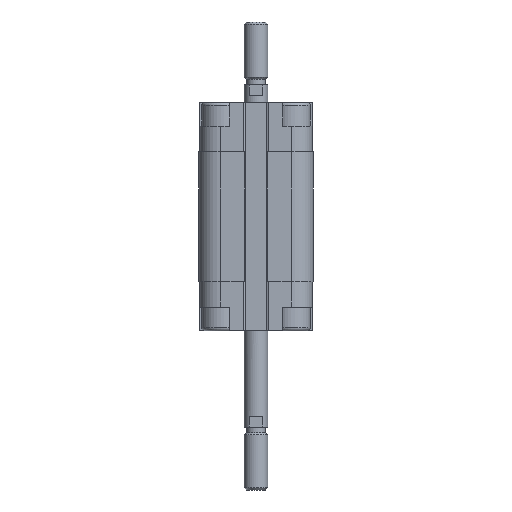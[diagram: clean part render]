
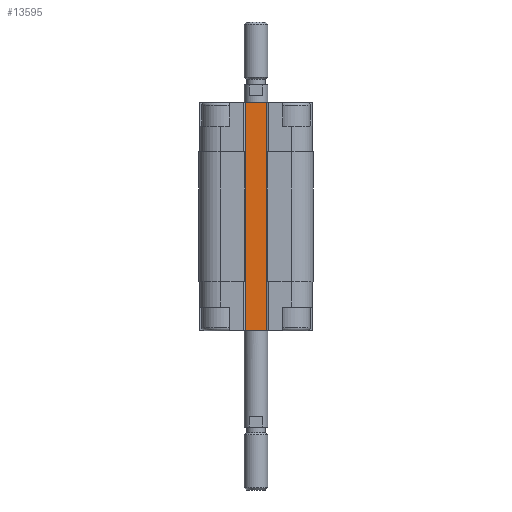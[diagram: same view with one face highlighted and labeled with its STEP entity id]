
A CAD part, front view. The second image highlights one B-rep face of the part: STEP entity #13595.
In plain terms, the highlighted planar face has unit normal (0, -1, 0).
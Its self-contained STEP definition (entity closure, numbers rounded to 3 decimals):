
#19 = ORIENTED_EDGE ( 'NONE', *, *, #2784, .F. ) ;
#64 = VECTOR ( 'NONE', #9588, 1000. ) ;
#168 = EDGE_LOOP ( 'NONE', ( #3519, #11594, #3656, #12008, #4501, #17433, #14143, #13774, #12749, #10877, #19, #6963 ) ) ;
#701 = LINE ( 'NONE', #11551, #7734 ) ;
#982 = DIRECTION ( 'NONE',  ( 0., 0., 1. ) ) ;
#999 = CARTESIAN_POINT ( 'NONE',  ( -3.2, -9.5, -12.5 ) ) ;
#1202 = DIRECTION ( 'NONE',  ( -1., 0., 0. ) ) ;
#1282 = VERTEX_POINT ( 'NONE', #16521 ) ;
#1376 = PLANE ( 'NONE',  #2665 ) ;
#1443 = EDGE_CURVE ( 'NONE', #4399, #1513, #9028, .T. ) ;
#1505 = LINE ( 'NONE', #12865, #17678 ) ;
#1513 = VERTEX_POINT ( 'NONE', #14598 ) ;
#1535 = EDGE_CURVE ( 'NONE', #3962, #16084, #9829, .T. ) ;
#1669 = CARTESIAN_POINT ( 'NONE',  ( -3.2, -9.5, -45.5 ) ) ;
#2234 = CARTESIAN_POINT ( 'NONE',  ( 3., -9.5, -12.5 ) ) ;
#2322 = EDGE_CURVE ( 'NONE', #7183, #7747, #10875, .T. ) ;
#2614 = DIRECTION ( 'NONE',  ( 1., 0., 0. ) ) ;
#2665 = AXIS2_PLACEMENT_3D ( 'NONE', #9617, #5406, #1202 ) ;
#2784 = EDGE_CURVE ( 'NONE', #16010, #17365, #6619, .T. ) ;
#2847 = CARTESIAN_POINT ( 'NONE',  ( -3., -9.5, -58. ) ) ;
#3519 = ORIENTED_EDGE ( 'NONE', *, *, #2322, .F. ) ;
#3609 = LINE ( 'NONE', #14563, #17707 ) ;
#3656 = ORIENTED_EDGE ( 'NONE', *, *, #7847, .F. ) ;
#3684 = LINE ( 'NONE', #4938, #6013 ) ;
#3962 = VERTEX_POINT ( 'NONE', #4201 ) ;
#4201 = CARTESIAN_POINT ( 'NONE',  ( 3., -9.5, -58. ) ) ;
#4399 = VERTEX_POINT ( 'NONE', #1669 ) ;
#4501 = ORIENTED_EDGE ( 'NONE', *, *, #1443, .T. ) ;
#4609 = CARTESIAN_POINT ( 'NONE',  ( -3., -9.5, -58. ) ) ;
#4886 = VECTOR ( 'NONE', #14357, 1000. ) ;
#4938 = CARTESIAN_POINT ( 'NONE',  ( -3.2, -9.5, -45.5 ) ) ;
#5406 = DIRECTION ( 'NONE',  ( 0., -1., 0. ) ) ;
#5434 = CARTESIAN_POINT ( 'NONE',  ( 3., -9.5, -58. ) ) ;
#5934 = VERTEX_POINT ( 'NONE', #999 ) ;
#6013 = VECTOR ( 'NONE', #6273, 1000. ) ;
#6079 = LINE ( 'NONE', #11572, #9331 ) ;
#6273 = DIRECTION ( 'NONE',  ( 0., 0., 1. ) ) ;
#6318 = CARTESIAN_POINT ( 'NONE',  ( 3.2, -9.5, -45.5 ) ) ;
#6619 = LINE ( 'NONE', #8234, #64 ) ;
#6686 = DIRECTION ( 'NONE',  ( 0., 0., 1. ) ) ;
#6708 = VECTOR ( 'NONE', #2614, 1000. ) ;
#6890 = CARTESIAN_POINT ( 'NONE',  ( -3., -9.5, 0. ) ) ;
#6963 = ORIENTED_EDGE ( 'NONE', *, *, #15486, .T. ) ;
#7183 = VERTEX_POINT ( 'NONE', #6890 ) ;
#7496 = CARTESIAN_POINT ( 'NONE',  ( 3., -9.5, 0. ) ) ;
#7727 = DIRECTION ( 'NONE',  ( 0., 0., 1. ) ) ;
#7734 = VECTOR ( 'NONE', #17031, 1000. ) ;
#7747 = VERTEX_POINT ( 'NONE', #7496 ) ;
#7847 = EDGE_CURVE ( 'NONE', #5934, #1282, #701, .T. ) ;
#7939 = DIRECTION ( 'NONE',  ( 1., 0., 0. ) ) ;
#8095 = CARTESIAN_POINT ( 'NONE',  ( 3., -9.5, -45.5 ) ) ;
#8221 = EDGE_CURVE ( 'NONE', #10266, #3962, #14731, .T. ) ;
#8234 = CARTESIAN_POINT ( 'NONE',  ( 9., -9.5, -12.5 ) ) ;
#9028 = LINE ( 'NONE', #17574, #12166 ) ;
#9331 = VECTOR ( 'NONE', #17046, 1000. ) ;
#9460 = EDGE_CURVE ( 'NONE', #10266, #1513, #3609, .T. ) ;
#9588 = DIRECTION ( 'NONE',  ( 1., 0., 0. ) ) ;
#9617 = CARTESIAN_POINT ( 'NONE',  ( -3., -9.5, -12.5 ) ) ;
#9829 = LINE ( 'NONE', #5434, #15042 ) ;
#10266 = VERTEX_POINT ( 'NONE', #2847 ) ;
#10418 = EDGE_CURVE ( 'NONE', #16084, #11685, #1505, .T. ) ;
#10490 = LINE ( 'NONE', #2234, #4886 ) ;
#10801 = FACE_OUTER_BOUND ( 'NONE', #168, .T. ) ;
#10875 = LINE ( 'NONE', #12039, #6708 ) ;
#10877 = ORIENTED_EDGE ( 'NONE', *, *, #11321, .T. ) ;
#11250 = EDGE_CURVE ( 'NONE', #1282, #7183, #6079, .T. ) ;
#11321 = EDGE_CURVE ( 'NONE', #11685, #17365, #13355, .T. ) ;
#11551 = CARTESIAN_POINT ( 'NONE',  ( -3.2, -9.5, -12.5 ) ) ;
#11572 = CARTESIAN_POINT ( 'NONE',  ( -3., -9.5, -12.5 ) ) ;
#11594 = ORIENTED_EDGE ( 'NONE', *, *, #11250, .F. ) ;
#11654 = CARTESIAN_POINT ( 'NONE',  ( 3.2, -9.5, -45.5 ) ) ;
#11685 = VERTEX_POINT ( 'NONE', #6318 ) ;
#12008 = ORIENTED_EDGE ( 'NONE', *, *, #15063, .F. ) ;
#12039 = CARTESIAN_POINT ( 'NONE',  ( -3., -9.5, 0. ) ) ;
#12166 = VECTOR ( 'NONE', #7939, 1000. ) ;
#12749 = ORIENTED_EDGE ( 'NONE', *, *, #10418, .T. ) ;
#12865 = CARTESIAN_POINT ( 'NONE',  ( -3.2, -9.5, -45.5 ) ) ;
#13135 = CARTESIAN_POINT ( 'NONE',  ( 3., -9.5, -12.5 ) ) ;
#13355 = LINE ( 'NONE', #11654, #15643 ) ;
#13595 = ADVANCED_FACE ( 'NONE', ( #10801 ), #1376, .T. ) ;
#13774 = ORIENTED_EDGE ( 'NONE', *, *, #1535, .T. ) ;
#14143 = ORIENTED_EDGE ( 'NONE', *, *, #8221, .T. ) ;
#14309 = DIRECTION ( 'NONE',  ( 1., 0., 0. ) ) ;
#14357 = DIRECTION ( 'NONE',  ( 0., 0., 1. ) ) ;
#14563 = CARTESIAN_POINT ( 'NONE',  ( -3., -9.5, -58. ) ) ;
#14598 = CARTESIAN_POINT ( 'NONE',  ( -3., -9.5, -45.5 ) ) ;
#14731 = LINE ( 'NONE', #4609, #15215 ) ;
#15042 = VECTOR ( 'NONE', #6686, 1000. ) ;
#15063 = EDGE_CURVE ( 'NONE', #4399, #5934, #3684, .T. ) ;
#15215 = VECTOR ( 'NONE', #14309, 1000. ) ;
#15486 = EDGE_CURVE ( 'NONE', #16010, #7747, #10490, .T. ) ;
#15643 = VECTOR ( 'NONE', #982, 1000. ) ;
#15654 = DIRECTION ( 'NONE',  ( 1., 0., 0. ) ) ;
#16010 = VERTEX_POINT ( 'NONE', #13135 ) ;
#16084 = VERTEX_POINT ( 'NONE', #8095 ) ;
#16521 = CARTESIAN_POINT ( 'NONE',  ( -3., -9.5, -12.5 ) ) ;
#17031 = DIRECTION ( 'NONE',  ( 1., 0., 0. ) ) ;
#17046 = DIRECTION ( 'NONE',  ( 0., 0., 1. ) ) ;
#17365 = VERTEX_POINT ( 'NONE', #17640 ) ;
#17433 = ORIENTED_EDGE ( 'NONE', *, *, #9460, .F. ) ;
#17574 = CARTESIAN_POINT ( 'NONE',  ( -3.2, -9.5, -45.5 ) ) ;
#17640 = CARTESIAN_POINT ( 'NONE',  ( 3.2, -9.5, -12.5 ) ) ;
#17678 = VECTOR ( 'NONE', #15654, 1000. ) ;
#17707 = VECTOR ( 'NONE', #7727, 1000. ) ;
